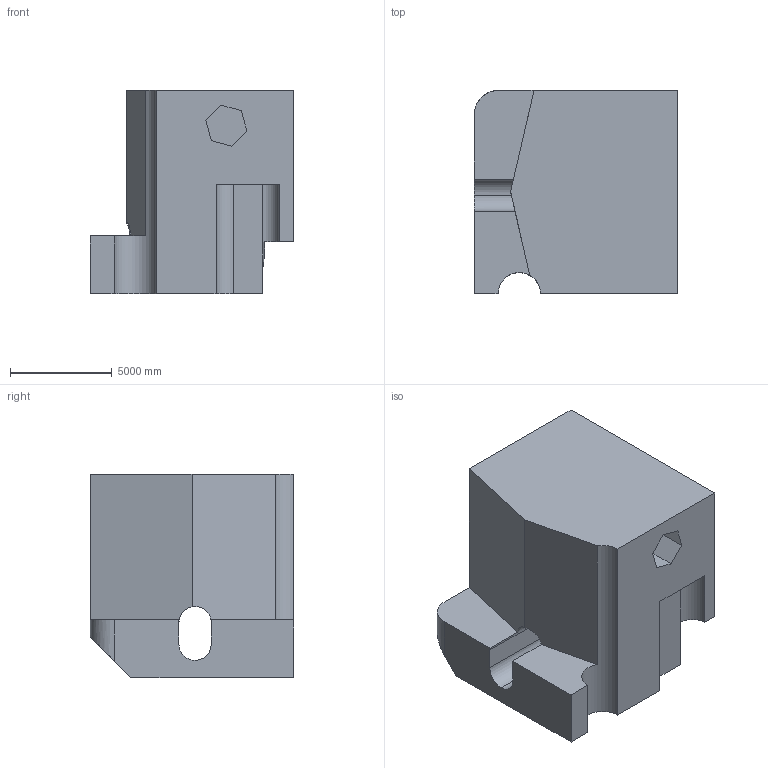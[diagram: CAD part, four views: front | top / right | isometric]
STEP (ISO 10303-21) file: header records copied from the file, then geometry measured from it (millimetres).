
FILE_DESCRIPTION (( 'STEP AP203' ), '1' );
FILE_NAME ('983.STEP', '2022-07-29T14:56:39', ( 'user' ), ( '' ), 'SwSTEP 2.0', 'SolidWorks 2021', '' );
FILE_SCHEMA (( 'CONFIG_CONTROL_DESIGN' ));
Length unit declared in the file: centimetre
Products named in the file (1): 983
Bounding box: 10000 x 10000 x 10000 mm (x, y, z)
Volume: 684147167801 mm3; surface area: 668600322 mm2
Topology: 1 solids, 1 shells, 43 faces, 122 edges, 81 vertices
Faces by surface type: plane 35, cylinder 8
Entity records: 1464 total; most frequent: CARTESIAN_POINT 265, ORIENTED_EDGE 244, DIRECTION 219, EDGE_CURVE 122, VECTOR 101, LINE 101, VERTEX_POINT 81, AXIS2_PLACEMENT_3D 59
